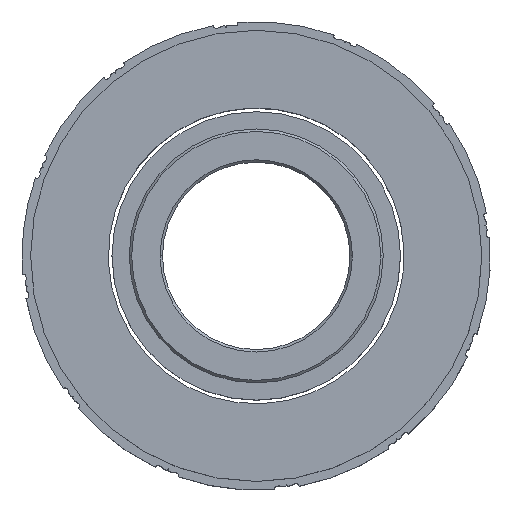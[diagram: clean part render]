
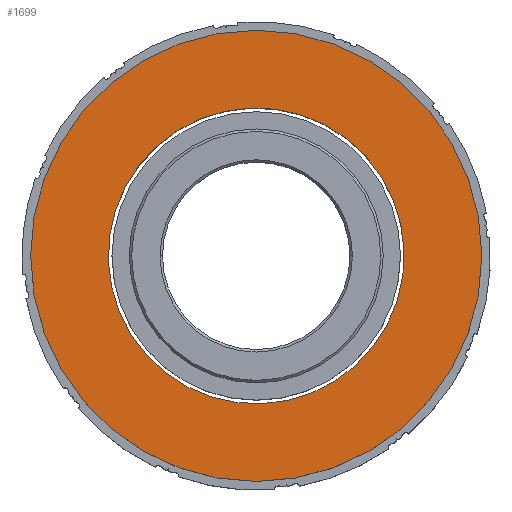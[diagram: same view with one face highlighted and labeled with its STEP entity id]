
A CAD part, top view. The second image highlights one B-rep face of the part: STEP entity #1699.
In plain terms, the highlighted planar face has unit normal (0, 0, 1).
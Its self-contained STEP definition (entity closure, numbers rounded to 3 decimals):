
#682 = EDGE_CURVE ( 'NONE', #1223, #8079, #4846, .T. ) ;
#1223 = VERTEX_POINT ( 'NONE', #12902 ) ;
#1235 = CARTESIAN_POINT ( 'NONE',  ( 7.993, 0.266, 11.307 ) ) ;
#1699 = ADVANCED_FACE ( 'NONE', ( #13941, #9147 ), #8415, .T. ) ;
#1916 = VERTEX_POINT ( 'NONE', #2835 ) ;
#2269 = CARTESIAN_POINT ( 'NONE',  ( 7.993, 0.266, 11.307 ) ) ;
#2686 = ORIENTED_EDGE ( 'NONE', *, *, #12552, .F. ) ;
#2725 = CARTESIAN_POINT ( 'NONE',  ( 26.293, 0.266, 11.307 ) ) ;
#2835 = CARTESIAN_POINT ( 'NONE',  ( -10.307, 0.266, 11.307 ) ) ;
#2938 = DIRECTION ( 'NONE',  ( 1., 0., 0. ) ) ;
#3065 = AXIS2_PLACEMENT_3D ( 'NONE', #4498, #11894, #5695 ) ;
#3279 = ORIENTED_EDGE ( 'NONE', *, *, #11172, .T. ) ;
#3468 = DIRECTION ( 'NONE',  ( 1., 0., 0. ) ) ;
#4257 = EDGE_LOOP ( 'NONE', ( #8898, #3279 ) ) ;
#4498 = CARTESIAN_POINT ( 'NONE',  ( 7.993, 0.266, 11.307 ) ) ;
#4846 = CIRCLE ( 'NONE', #13770, 12. ) ;
#5257 = ORIENTED_EDGE ( 'NONE', *, *, #682, .F. ) ;
#5695 = DIRECTION ( 'NONE',  ( 1., 0., 0. ) ) ;
#6655 = DIRECTION ( 'NONE',  ( 0., 0., 1. ) ) ;
#6695 = CARTESIAN_POINT ( 'NONE',  ( 7.993, 0.266, 11.307 ) ) ;
#8079 = VERTEX_POINT ( 'NONE', #8696 ) ;
#8415 = PLANE ( 'NONE',  #8451 ) ;
#8451 = AXIS2_PLACEMENT_3D ( 'NONE', #1235, #9529, #15521 ) ;
#8696 = CARTESIAN_POINT ( 'NONE',  ( 19.078, 4.863, 11.307 ) ) ;
#8898 = ORIENTED_EDGE ( 'NONE', *, *, #14256, .T. ) ;
#9147 = FACE_BOUND ( 'NONE', #13377, .T. ) ;
#9189 = CARTESIAN_POINT ( 'NONE',  ( 7.993, 0.266, 11.307 ) ) ;
#9529 = DIRECTION ( 'NONE',  ( 0., 0., 1. ) ) ;
#9898 = CIRCLE ( 'NONE', #11169, 18.3 ) ;
#9931 = CIRCLE ( 'NONE', #3065, 18.3 ) ;
#10541 = DIRECTION ( 'NONE',  ( 1., 0., 0. ) ) ;
#11061 = CIRCLE ( 'NONE', #13090, 12. ) ;
#11169 = AXIS2_PLACEMENT_3D ( 'NONE', #6695, #11546, #2938 ) ;
#11172 = EDGE_CURVE ( 'NONE', #15522, #1916, #9931, .T. ) ;
#11546 = DIRECTION ( 'NONE',  ( 0., 0., 1. ) ) ;
#11894 = DIRECTION ( 'NONE',  ( 0., 0., 1. ) ) ;
#12552 = EDGE_CURVE ( 'NONE', #8079, #1223, #11061, .T. ) ;
#12902 = CARTESIAN_POINT ( 'NONE',  ( -3.092, -4.33, 11.307 ) ) ;
#13090 = AXIS2_PLACEMENT_3D ( 'NONE', #2269, #15751, #3468 ) ;
#13377 = EDGE_LOOP ( 'NONE', ( #2686, #5257 ) ) ;
#13770 = AXIS2_PLACEMENT_3D ( 'NONE', #9189, #6655, #10541 ) ;
#13941 = FACE_OUTER_BOUND ( 'NONE', #4257, .T. ) ;
#14256 = EDGE_CURVE ( 'NONE', #1916, #15522, #9898, .T. ) ;
#15521 = DIRECTION ( 'NONE',  ( 1., 0., 0. ) ) ;
#15522 = VERTEX_POINT ( 'NONE', #2725 ) ;
#15751 = DIRECTION ( 'NONE',  ( 0., 0., 1. ) ) ;
